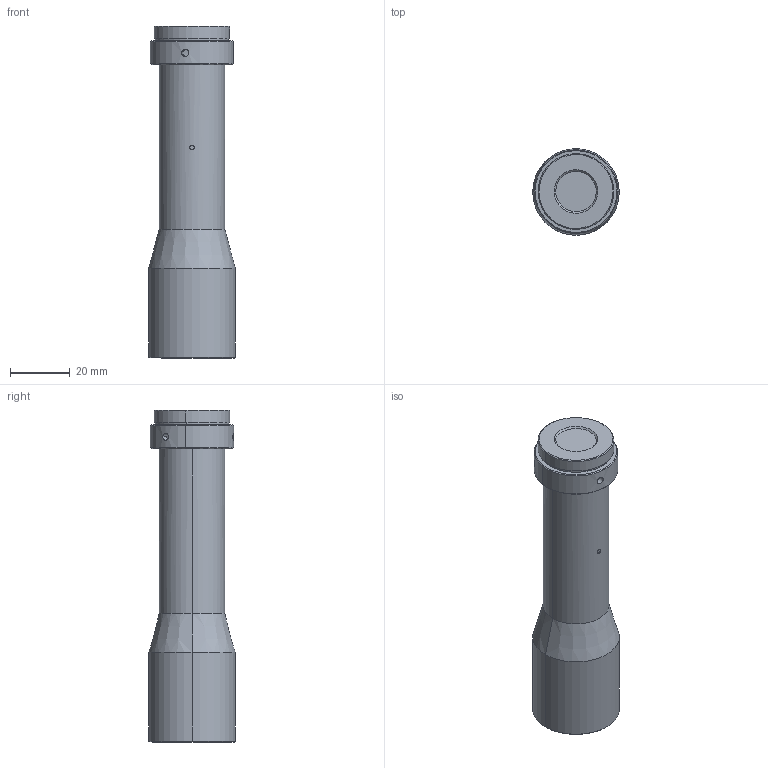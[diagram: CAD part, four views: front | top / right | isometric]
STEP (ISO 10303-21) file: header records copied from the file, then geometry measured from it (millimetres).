
FILE_DESCRIPTION (( 'STEP AP203' ), '1' );
FILE_NAME ('WWL05-110ATV4.STEP', '2023-11-23T01:34:58', ( '' ), ( '' ), 'SwSTEP 2.0', 'SolidWorks 2017', '' );
FILE_SCHEMA (( 'CONFIG_CONTROL_DESIGN' ));
Length unit declared in the file: millimetre
Products named in the file (1): WWL05-110ATV4
Bounding box: 29 x 29 x 111.23 mm (x, y, z)
Volume: 54424.7 mm3; surface area: 10392.1 mm2
Topology: 1 solids, 1 shells, 45 faces, 90 edges, 56 vertices
Faces by surface type: cylinder 24, cone 14, plane 7
Entity records: 1473 total; most frequent: CARTESIAN_POINT 452, DIRECTION 206, ORIENTED_EDGE 180, EDGE_CURVE 90, AXIS2_PLACEMENT_3D 86, VERTEX_POINT 56, EDGE_LOOP 54, FACE_OUTER_BOUND 45
